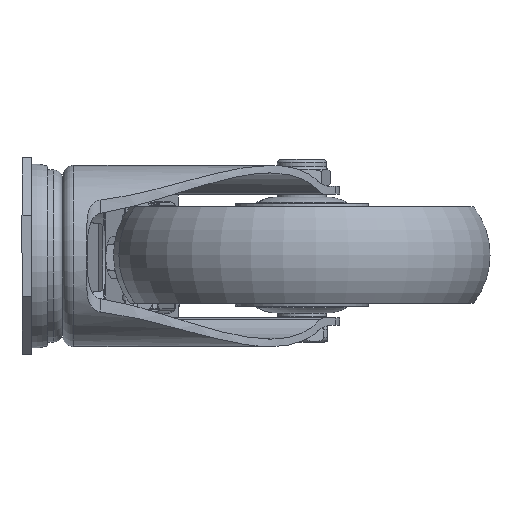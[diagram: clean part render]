
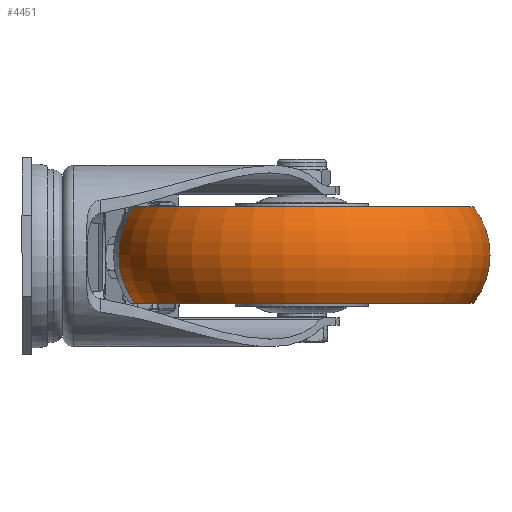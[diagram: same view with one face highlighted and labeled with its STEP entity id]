
A CAD part, left-side view. The second image highlights one B-rep face of the part: STEP entity #4451.
In plain terms, the highlighted toroidal (fillet/blend) face has major radius 36.477 mm and minor radius 26.023 mm.
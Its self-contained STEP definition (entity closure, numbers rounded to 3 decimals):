
#4403 = ORIENTED_EDGE ( 'NONE', *, *, #4886, .F. ) ;
#4415 = ORIENTED_EDGE ( 'NONE', *, *, #4568, .F. ) ;
#4416 = EDGE_CURVE ( 'NONE', #4569, #4573, #18413, .T. ) ;
#4447 = EDGE_LOOP ( 'NONE', ( #4415, #4454, #4450, #4403 ) ) ;
#4450 = ORIENTED_EDGE ( 'NONE', *, *, #4501, .T. ) ;
#4451 = ADVANCED_FACE ( 'NONE', ( #18480 ), #18473, .T. ) ;
#4454 = ORIENTED_EDGE ( 'NONE', *, *, #4416, .T. ) ;
#4501 = EDGE_CURVE ( 'NONE', #4573, #4566, #18562, .T. ) ;
#4566 = VERTEX_POINT ( 'NONE', #18685 ) ;
#4567 = VERTEX_POINT ( 'NONE', #18684 ) ;
#4568 = EDGE_CURVE ( 'NONE', #4569, #4567, #18683, .T. ) ;
#4569 = VERTEX_POINT ( 'NONE', #18678 ) ;
#4573 = VERTEX_POINT ( 'NONE', #18731 ) ;
#4886 = EDGE_CURVE ( 'NONE', #4567, #4566, #19540, .T. ) ;
#18409 = DIRECTION ( 'NONE',  ( 0., 0., -1. ) ) ;
#18410 = DIRECTION ( 'NONE',  ( 0., -1., 0. ) ) ;
#18411 = CARTESIAN_POINT ( 'NONE',  ( 0., 16., 0. ) ) ;
#18412 = AXIS2_PLACEMENT_3D ( 'NONE', #18411, #18410, #18409 ) ;
#18413 = CIRCLE ( 'NONE', #18412, 57. ) ;
#18470 = DIRECTION ( 'NONE',  ( 0., 0., -1. ) ) ;
#18471 = DIRECTION ( 'NONE',  ( 0., -1., 0. ) ) ;
#18472 = AXIS2_PLACEMENT_3D ( 'NONE', #18479, #18471, #18470 ) ;
#18473 = TOROIDAL_SURFACE ( 'NONE', #18472, 36.477, 26.023 ) ;
#18479 = CARTESIAN_POINT ( 'NONE',  ( 0., 0., 0. ) ) ;
#18480 = FACE_OUTER_BOUND ( 'NONE', #4447, .T. ) ;
#18558 = DIRECTION ( 'NONE',  ( 0., 0., 1. ) ) ;
#18559 = DIRECTION ( 'NONE',  ( -1., 0., 0. ) ) ;
#18560 = CARTESIAN_POINT ( 'NONE',  ( 0., 0., -36.477 ) ) ;
#18561 = AXIS2_PLACEMENT_3D ( 'NONE', #18560, #18559, #18558 ) ;
#18562 = CIRCLE ( 'NONE', #18561, 26.023 ) ;
#18678 = CARTESIAN_POINT ( 'NONE',  ( 0., 16., 57. ) ) ;
#18679 = DIRECTION ( 'NONE',  ( 0., 0., -1. ) ) ;
#18680 = DIRECTION ( 'NONE',  ( 1., 0., 0. ) ) ;
#18681 = CARTESIAN_POINT ( 'NONE',  ( 0., 0., 36.477 ) ) ;
#18682 = AXIS2_PLACEMENT_3D ( 'NONE', #18681, #18680, #18679 ) ;
#18683 = CIRCLE ( 'NONE', #18682, 26.023 ) ;
#18684 = CARTESIAN_POINT ( 'NONE',  ( 0., -16., 57. ) ) ;
#18685 = CARTESIAN_POINT ( 'NONE',  ( 0., -16., -57. ) ) ;
#18731 = CARTESIAN_POINT ( 'NONE',  ( 0., 16., -57. ) ) ;
#19536 = DIRECTION ( 'NONE',  ( 0., 0., -1. ) ) ;
#19537 = DIRECTION ( 'NONE',  ( 0., -1., 0. ) ) ;
#19538 = CARTESIAN_POINT ( 'NONE',  ( 0., -16., 0. ) ) ;
#19539 = AXIS2_PLACEMENT_3D ( 'NONE', #19538, #19537, #19536 ) ;
#19540 = CIRCLE ( 'NONE', #19539, 57. ) ;
